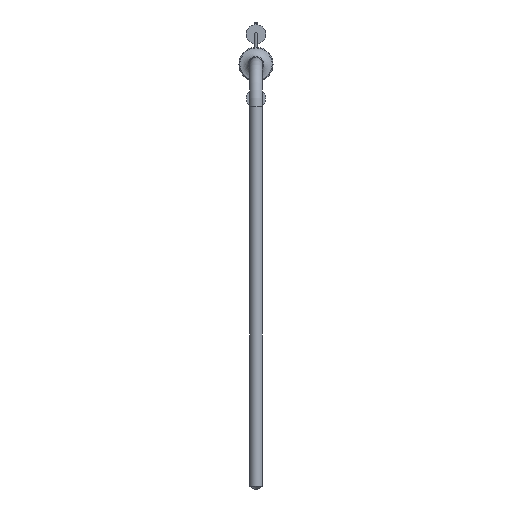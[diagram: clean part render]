
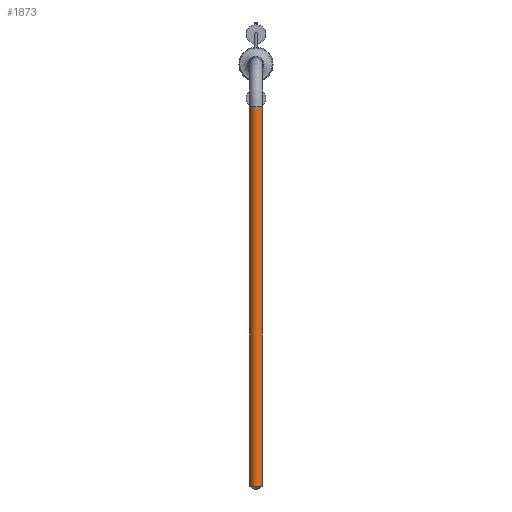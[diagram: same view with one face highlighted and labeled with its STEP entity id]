
A CAD part, top view. The second image highlights one B-rep face of the part: STEP entity #1873.
In plain terms, the highlighted cylindrical face has radius 1.5 mm (diameter 3 mm), a full revolution.
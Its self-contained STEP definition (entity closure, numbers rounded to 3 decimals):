
#215 = CARTESIAN_POINT ( 'NONE',  ( 0., -99.134, 24. ) ) ;
#249 = DIRECTION ( 'NONE',  ( 0., 0., 1. ) ) ;
#375 = DIRECTION ( 'NONE',  ( 0., 1., 0. ) ) ;
#426 = DIRECTION ( 'NONE',  ( 0., -1., 0. ) ) ;
#470 = ORIENTED_EDGE ( 'NONE', *, *, #1358, .T. ) ;
#482 = EDGE_LOOP ( 'NONE', ( #470 ) ) ;
#549 = AXIS2_PLACEMENT_3D ( 'NONE', #1263, #1779, #249 ) ;
#572 = DIRECTION ( 'NONE',  ( 0., 0., 1. ) ) ;
#584 = DIRECTION ( 'NONE',  ( -1., 0., 0. ) ) ;
#617 = ORIENTED_EDGE ( 'NONE', *, *, #1383, .T. ) ;
#865 = AXIS2_PLACEMENT_3D ( 'NONE', #215, #375, #572 ) ;
#879 = CARTESIAN_POINT ( 'NONE',  ( 0., -10., 24. ) ) ;
#934 = FACE_OUTER_BOUND ( 'NONE', #2107, .T. ) ;
#977 = AXIS2_PLACEMENT_3D ( 'NONE', #879, #426, #584 ) ;
#1263 = CARTESIAN_POINT ( 'NONE',  ( 0., -10., 24. ) ) ;
#1270 = CARTESIAN_POINT ( 'NONE',  ( 0., -99.134, 25.5 ) ) ;
#1358 = EDGE_CURVE ( 'NONE', #1597, #1597, #1656, .T. ) ;
#1383 = EDGE_CURVE ( 'NONE', #2079, #2079, #1933, .T. ) ;
#1597 = VERTEX_POINT ( 'NONE', #1270 ) ;
#1656 = CIRCLE ( 'NONE', #865, 1.5 ) ;
#1779 = DIRECTION ( 'NONE',  ( 0., -1., 0. ) ) ;
#1873 = ADVANCED_FACE ( 'NONE', ( #1923, #934 ), #1902, .T. ) ;
#1902 = CYLINDRICAL_SURFACE ( 'NONE', #549, 1.5 ) ;
#1923 = FACE_OUTER_BOUND ( 'NONE', #482, .T. ) ;
#1933 = CIRCLE ( 'NONE', #977, 1.5 ) ;
#2079 = VERTEX_POINT ( 'NONE', #2101 ) ;
#2101 = CARTESIAN_POINT ( 'NONE',  ( -1.5, -10., 24. ) ) ;
#2107 = EDGE_LOOP ( 'NONE', ( #617 ) ) ;
